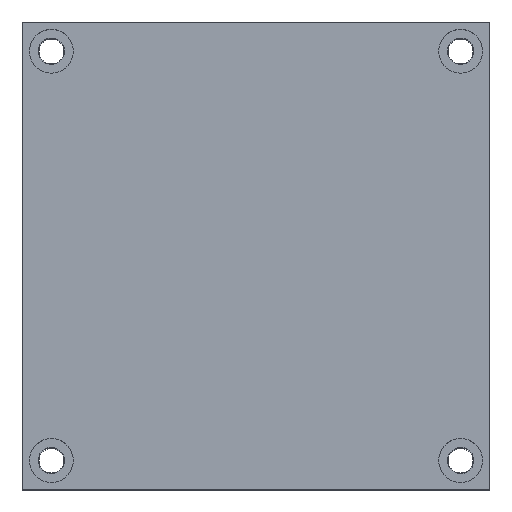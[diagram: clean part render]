
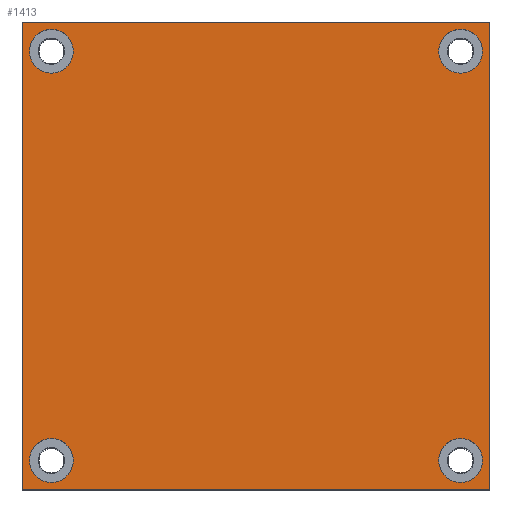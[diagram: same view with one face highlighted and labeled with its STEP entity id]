
A CAD part, top view. The second image highlights one B-rep face of the part: STEP entity #1413.
In plain terms, the highlighted planar face has unit normal (0, 0, 1).
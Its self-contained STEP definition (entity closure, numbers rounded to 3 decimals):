
#155 = EDGE_CURVE ( 'NONE', #2534, #530, #2487, .T. ) ;
#210 = CARTESIAN_POINT ( 'NONE',  ( 77.5, 70., 28. ) ) ;
#282 = AXIS2_PLACEMENT_3D ( 'NONE', #3116, #938, #689 ) ;
#294 = CIRCLE ( 'NONE', #2036, 7.5 ) ;
#320 = DIRECTION ( 'NONE',  ( 1., 0., 0. ) ) ;
#361 = EDGE_CURVE ( 'NONE', #530, #2534, #845, .T. ) ;
#365 = CIRCLE ( 'NONE', #3057, 7.5 ) ;
#424 = DIRECTION ( 'NONE',  ( 1., 0., 0. ) ) ;
#447 = CARTESIAN_POINT ( 'NONE',  ( 80., 80., 28. ) ) ;
#468 = DIRECTION ( 'NONE',  ( 0., -1., 0. ) ) ;
#475 = ORIENTED_EDGE ( 'NONE', *, *, #2775, .T. ) ;
#489 = EDGE_CURVE ( 'NONE', #1173, #1370, #1287, .T. ) ;
#497 = AXIS2_PLACEMENT_3D ( 'NONE', #2870, #3142, #978 ) ;
#530 = VERTEX_POINT ( 'NONE', #1556 ) ;
#544 = DIRECTION ( 'NONE',  ( 0., 0., 1. ) ) ;
#556 = DIRECTION ( 'NONE',  ( 0., 0., 1. ) ) ;
#573 = DIRECTION ( 'NONE',  ( 1., 0., 0. ) ) ;
#575 = CARTESIAN_POINT ( 'NONE',  ( -80., 80., 28. ) ) ;
#644 = CARTESIAN_POINT ( 'NONE',  ( -80., 80., 28. ) ) ;
#681 = AXIS2_PLACEMENT_3D ( 'NONE', #2603, #2916, #424 ) ;
#689 = DIRECTION ( 'NONE',  ( 1., 0., 0. ) ) ;
#725 = DIRECTION ( 'NONE',  ( 0., 1., 0. ) ) ;
#737 = EDGE_CURVE ( 'NONE', #2111, #2852, #2724, .T. ) ;
#750 = EDGE_LOOP ( 'NONE', ( #782, #2253 ) ) ;
#782 = ORIENTED_EDGE ( 'NONE', *, *, #737, .F. ) ;
#788 = CARTESIAN_POINT ( 'NONE',  ( -62.5, -70., 28. ) ) ;
#845 = CIRCLE ( 'NONE', #681, 7.5 ) ;
#880 = VERTEX_POINT ( 'NONE', #1253 ) ;
#881 = EDGE_CURVE ( 'NONE', #2852, #2111, #1195, .T. ) ;
#938 = DIRECTION ( 'NONE',  ( 0., 0., 1. ) ) ;
#946 = FACE_BOUND ( 'NONE', #750, .T. ) ;
#964 = DIRECTION ( 'NONE',  ( 0., 0., 1. ) ) ;
#978 = DIRECTION ( 'NONE',  ( 1., 0., 0. ) ) ;
#986 = CARTESIAN_POINT ( 'NONE',  ( 70., 70., 28. ) ) ;
#1004 = DIRECTION ( 'NONE',  ( 1., 0., 0. ) ) ;
#1009 = FACE_BOUND ( 'NONE', #2178, .T. ) ;
#1053 = DIRECTION ( 'NONE',  ( 1., 0., 0. ) ) ;
#1067 = ORIENTED_EDGE ( 'NONE', *, *, #2197, .F. ) ;
#1109 = CARTESIAN_POINT ( 'NONE',  ( -77.5, -70., 28. ) ) ;
#1110 = ORIENTED_EDGE ( 'NONE', *, *, #1193, .F. ) ;
#1154 = VECTOR ( 'NONE', #725, 1000. ) ;
#1159 = EDGE_LOOP ( 'NONE', ( #1689, #1755 ) ) ;
#1173 = VERTEX_POINT ( 'NONE', #2976 ) ;
#1182 = VECTOR ( 'NONE', #1590, 1000. ) ;
#1188 = VERTEX_POINT ( 'NONE', #788 ) ;
#1193 = EDGE_CURVE ( 'NONE', #1188, #2380, #1375, .T. ) ;
#1195 = CIRCLE ( 'NONE', #1449, 7.5 ) ;
#1201 = EDGE_CURVE ( 'NONE', #1561, #880, #2644, .T. ) ;
#1228 = CARTESIAN_POINT ( 'NONE',  ( -80., 80., 28. ) ) ;
#1239 = ORIENTED_EDGE ( 'NONE', *, *, #361, .F. ) ;
#1253 = CARTESIAN_POINT ( 'NONE',  ( 77.5, -70., 28. ) ) ;
#1261 = FACE_BOUND ( 'NONE', #3124, .T. ) ;
#1287 = LINE ( 'NONE', #2039, #1154 ) ;
#1351 = DIRECTION ( 'NONE',  ( 1., 0., 0. ) ) ;
#1370 = VERTEX_POINT ( 'NONE', #447 ) ;
#1372 = VECTOR ( 'NONE', #573, 1000. ) ;
#1375 = CIRCLE ( 'NONE', #2495, 7.5 ) ;
#1394 = ORIENTED_EDGE ( 'NONE', *, *, #489, .T. ) ;
#1407 = CARTESIAN_POINT ( 'NONE',  ( 62.5, -70., 28. ) ) ;
#1413 = ADVANCED_FACE ( 'NONE', ( #1261, #1009, #946, #1957, #1678 ), #1975, .T. ) ;
#1449 = AXIS2_PLACEMENT_3D ( 'NONE', #986, #544, #1004 ) ;
#1455 = CARTESIAN_POINT ( 'NONE',  ( 70., -70., 28. ) ) ;
#1474 = AXIS2_PLACEMENT_3D ( 'NONE', #1533, #2507, #320 ) ;
#1486 = CARTESIAN_POINT ( 'NONE',  ( 62.5, 70., 28. ) ) ;
#1511 = EDGE_CURVE ( 'NONE', #880, #1561, #294, .T. ) ;
#1533 = CARTESIAN_POINT ( 'NONE',  ( 70., -70., 28. ) ) ;
#1556 = CARTESIAN_POINT ( 'NONE',  ( -62.5, 70., 28. ) ) ;
#1561 = VERTEX_POINT ( 'NONE', #1407 ) ;
#1590 = DIRECTION ( 'NONE',  ( -1., 0., 0. ) ) ;
#1635 = AXIS2_PLACEMENT_3D ( 'NONE', #3021, #2072, #1351 ) ;
#1655 = DIRECTION ( 'NONE',  ( 0., 0., 1. ) ) ;
#1665 = EDGE_CURVE ( 'NONE', #2483, #1173, #2538, .T. ) ;
#1678 = FACE_OUTER_BOUND ( 'NONE', #2636, .T. ) ;
#1689 = ORIENTED_EDGE ( 'NONE', *, *, #1511, .F. ) ;
#1755 = ORIENTED_EDGE ( 'NONE', *, *, #1201, .F. ) ;
#1775 = CARTESIAN_POINT ( 'NONE',  ( -70., -70., 28. ) ) ;
#1798 = LINE ( 'NONE', #575, #1182 ) ;
#1819 = CARTESIAN_POINT ( 'NONE',  ( -77.5, 70., 28. ) ) ;
#1856 = VERTEX_POINT ( 'NONE', #644 ) ;
#1942 = CARTESIAN_POINT ( 'NONE',  ( -70., -70., 28. ) ) ;
#1957 = FACE_BOUND ( 'NONE', #1159, .T. ) ;
#1975 = PLANE ( 'NONE',  #497 ) ;
#2036 = AXIS2_PLACEMENT_3D ( 'NONE', #1455, #1655, #2650 ) ;
#2039 = CARTESIAN_POINT ( 'NONE',  ( 80., 80., 28. ) ) ;
#2072 = DIRECTION ( 'NONE',  ( 0., 0., 1. ) ) ;
#2111 = VERTEX_POINT ( 'NONE', #210 ) ;
#2112 = VECTOR ( 'NONE', #468, 1000. ) ;
#2178 = EDGE_LOOP ( 'NONE', ( #1239, #2828 ) ) ;
#2180 = DIRECTION ( 'NONE',  ( 1., 0., 0. ) ) ;
#2197 = EDGE_CURVE ( 'NONE', #2380, #1188, #365, .T. ) ;
#2253 = ORIENTED_EDGE ( 'NONE', *, *, #881, .F. ) ;
#2304 = CARTESIAN_POINT ( 'NONE',  ( -80., -80., 28. ) ) ;
#2380 = VERTEX_POINT ( 'NONE', #1109 ) ;
#2483 = VERTEX_POINT ( 'NONE', #2304 ) ;
#2487 = CIRCLE ( 'NONE', #1635, 7.5 ) ;
#2495 = AXIS2_PLACEMENT_3D ( 'NONE', #1775, #556, #1053 ) ;
#2507 = DIRECTION ( 'NONE',  ( 0., 0., 1. ) ) ;
#2534 = VERTEX_POINT ( 'NONE', #1819 ) ;
#2538 = LINE ( 'NONE', #2756, #1372 ) ;
#2603 = CARTESIAN_POINT ( 'NONE',  ( -70., 70., 28. ) ) ;
#2611 = LINE ( 'NONE', #1228, #2112 ) ;
#2619 = ORIENTED_EDGE ( 'NONE', *, *, #3153, .T. ) ;
#2636 = EDGE_LOOP ( 'NONE', ( #1394, #475, #2619, #2736 ) ) ;
#2644 = CIRCLE ( 'NONE', #1474, 7.5 ) ;
#2650 = DIRECTION ( 'NONE',  ( 1., 0., 0. ) ) ;
#2724 = CIRCLE ( 'NONE', #282, 7.5 ) ;
#2736 = ORIENTED_EDGE ( 'NONE', *, *, #1665, .T. ) ;
#2756 = CARTESIAN_POINT ( 'NONE',  ( -80., -80., 28. ) ) ;
#2775 = EDGE_CURVE ( 'NONE', #1370, #1856, #1798, .T. ) ;
#2828 = ORIENTED_EDGE ( 'NONE', *, *, #155, .F. ) ;
#2852 = VERTEX_POINT ( 'NONE', #1486 ) ;
#2870 = CARTESIAN_POINT ( 'NONE',  ( 0., 0., 28. ) ) ;
#2916 = DIRECTION ( 'NONE',  ( 0., 0., 1. ) ) ;
#2976 = CARTESIAN_POINT ( 'NONE',  ( 80., -80., 28. ) ) ;
#3021 = CARTESIAN_POINT ( 'NONE',  ( -70., 70., 28. ) ) ;
#3057 = AXIS2_PLACEMENT_3D ( 'NONE', #1942, #964, #2180 ) ;
#3116 = CARTESIAN_POINT ( 'NONE',  ( 70., 70., 28. ) ) ;
#3124 = EDGE_LOOP ( 'NONE', ( #1110, #1067 ) ) ;
#3142 = DIRECTION ( 'NONE',  ( 0., 0., 1. ) ) ;
#3153 = EDGE_CURVE ( 'NONE', #1856, #2483, #2611, .T. ) ;
